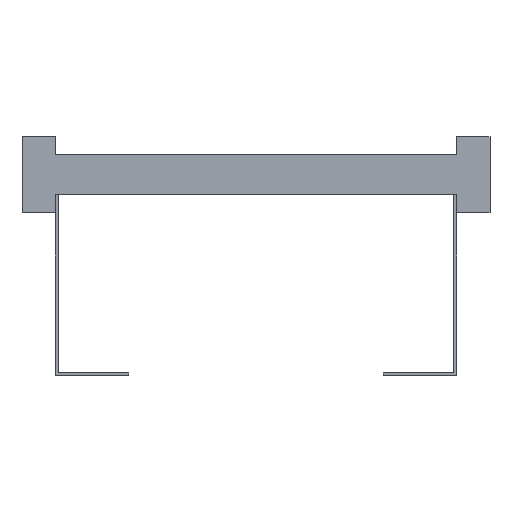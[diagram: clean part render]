
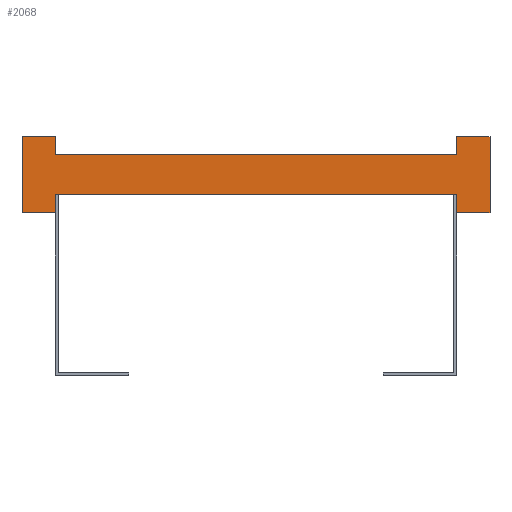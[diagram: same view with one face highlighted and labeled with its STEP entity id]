
A CAD part, front view. The second image highlights one B-rep face of the part: STEP entity #2068.
In plain terms, the highlighted planar face has unit normal (0, -1, 0).
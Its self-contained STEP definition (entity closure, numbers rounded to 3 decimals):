
#1=DIRECTION('',(0.,0.,1.));
#2=VECTOR('',#1,13.5);
#3=CARTESIAN_POINT('',(150.,0.,-28.5));
#4=LINE('',#3,#2);
#5=DIRECTION('',(0.,0.,-1.));
#6=VECTOR('',#5,13.5);
#7=CARTESIAN_POINT('',(-150.,0.,-15.));
#8=LINE('',#7,#6);
#9=DIRECTION('',(-1.,0.,0.));
#10=VECTOR('',#9,25.);
#11=CARTESIAN_POINT('',(-150.,0.,-28.5));
#12=LINE('',#11,#10);
#13=DIRECTION('',(0.,0.,1.));
#14=VECTOR('',#13,57.);
#15=CARTESIAN_POINT('',(-175.,0.,-28.5));
#16=LINE('',#15,#14);
#17=DIRECTION('',(1.,0.,0.));
#18=VECTOR('',#17,25.);
#19=CARTESIAN_POINT('',(-175.,0.,28.5));
#20=LINE('',#19,#18);
#21=DIRECTION('',(0.,0.,-1.));
#22=VECTOR('',#21,13.5);
#23=CARTESIAN_POINT('',(-150.,0.,28.5));
#24=LINE('',#23,#22);
#25=DIRECTION('',(0.,0.,1.));
#26=VECTOR('',#25,13.5);
#27=CARTESIAN_POINT('',(150.,0.,15.));
#28=LINE('',#27,#26);
#29=DIRECTION('',(1.,0.,0.));
#30=VECTOR('',#29,25.);
#31=CARTESIAN_POINT('',(150.,0.,28.5));
#32=LINE('',#31,#30);
#33=DIRECTION('',(0.,0.,-1.));
#34=VECTOR('',#33,57.);
#35=CARTESIAN_POINT('',(175.,0.,28.5));
#36=LINE('',#35,#34);
#37=DIRECTION('',(-1.,0.,0.));
#38=VECTOR('',#37,25.);
#39=CARTESIAN_POINT('',(175.,0.,-28.5));
#40=LINE('',#39,#38);
#1521=DIRECTION('',(1.,0.,0.));
#1522=VECTOR('',#1521,300.);
#1523=CARTESIAN_POINT('',(-150.,0.,-15.));
#1524=LINE('',#1523,#1522);
#1533=DIRECTION('',(1.,0.,0.));
#1534=VECTOR('',#1533,300.);
#1535=CARTESIAN_POINT('',(-150.,0.,15.));
#1536=LINE('',#1535,#1534);
#1537=CARTESIAN_POINT('',(-175.,0.,28.5));
#1538=CARTESIAN_POINT('',(-150.,0.,28.5));
#1539=VERTEX_POINT('',#1537);
#1540=VERTEX_POINT('',#1538);
#1541=CARTESIAN_POINT('',(-150.,0.,-28.5));
#1542=CARTESIAN_POINT('',(-175.,0.,-28.5));
#1543=VERTEX_POINT('',#1541);
#1544=VERTEX_POINT('',#1542);
#1545=CARTESIAN_POINT('',(175.,0.,28.5));
#1546=CARTESIAN_POINT('',(175.,0.,-28.5));
#1547=VERTEX_POINT('',#1545);
#1548=VERTEX_POINT('',#1546);
#1549=CARTESIAN_POINT('',(150.,0.,-28.5));
#1550=VERTEX_POINT('',#1549);
#1551=CARTESIAN_POINT('',(150.,0.,28.5));
#1552=VERTEX_POINT('',#1551);
#1569=CARTESIAN_POINT('',(-150.,0.,-15.));
#1571=VERTEX_POINT('',#1569);
#1573=CARTESIAN_POINT('',(-150.,0.,15.));
#1575=VERTEX_POINT('',#1573);
#1577=CARTESIAN_POINT('',(150.,0.,-15.));
#1579=VERTEX_POINT('',#1577);
#1581=CARTESIAN_POINT('',(150.,0.,15.));
#1583=VERTEX_POINT('',#1581);
#2037=CARTESIAN_POINT('',(0.,0.,0.));
#2038=DIRECTION('',(0.,1.,0.));
#2039=DIRECTION('',(1.,0.,0.));
#2040=AXIS2_PLACEMENT_3D('',#2037,#2038,#2039);
#2041=PLANE('',#2040);
#2043=ORIENTED_EDGE('',*,*,#2042,.T.);
#2045=ORIENTED_EDGE('',*,*,#2044,.F.);
#2047=ORIENTED_EDGE('',*,*,#2046,.T.);
#2049=ORIENTED_EDGE('',*,*,#2048,.T.);
#2051=ORIENTED_EDGE('',*,*,#2050,.T.);
#2053=ORIENTED_EDGE('',*,*,#2052,.T.);
#2055=ORIENTED_EDGE('',*,*,#2054,.T.);
#2057=ORIENTED_EDGE('',*,*,#2056,.T.);
#2059=ORIENTED_EDGE('',*,*,#2058,.T.);
#2061=ORIENTED_EDGE('',*,*,#2060,.T.);
#2063=ORIENTED_EDGE('',*,*,#2062,.T.);
#2065=ORIENTED_EDGE('',*,*,#2064,.T.);
#2066=EDGE_LOOP('',(#2043,#2045,#2047,#2049,#2051,#2053,#2055,#2057,#2059,#2061,
#2063,#2065));
#2067=FACE_OUTER_BOUND('',#2066,.F.);
#2068=ADVANCED_FACE('',(#2067),#2041,.F.);
#2042=EDGE_CURVE('',#1550,#1579,#4,.T.);
#2044=EDGE_CURVE('',#1571,#1579,#1524,.T.);
#2046=EDGE_CURVE('',#1571,#1543,#8,.T.);
#2048=EDGE_CURVE('',#1543,#1544,#12,.T.);
#2050=EDGE_CURVE('',#1544,#1539,#16,.T.);
#2052=EDGE_CURVE('',#1539,#1540,#20,.T.);
#2054=EDGE_CURVE('',#1540,#1575,#24,.T.);
#2056=EDGE_CURVE('',#1575,#1583,#1536,.T.);
#2058=EDGE_CURVE('',#1583,#1552,#28,.T.);
#2060=EDGE_CURVE('',#1552,#1547,#32,.T.);
#2062=EDGE_CURVE('',#1547,#1548,#36,.T.);
#2064=EDGE_CURVE('',#1548,#1550,#40,.T.);
